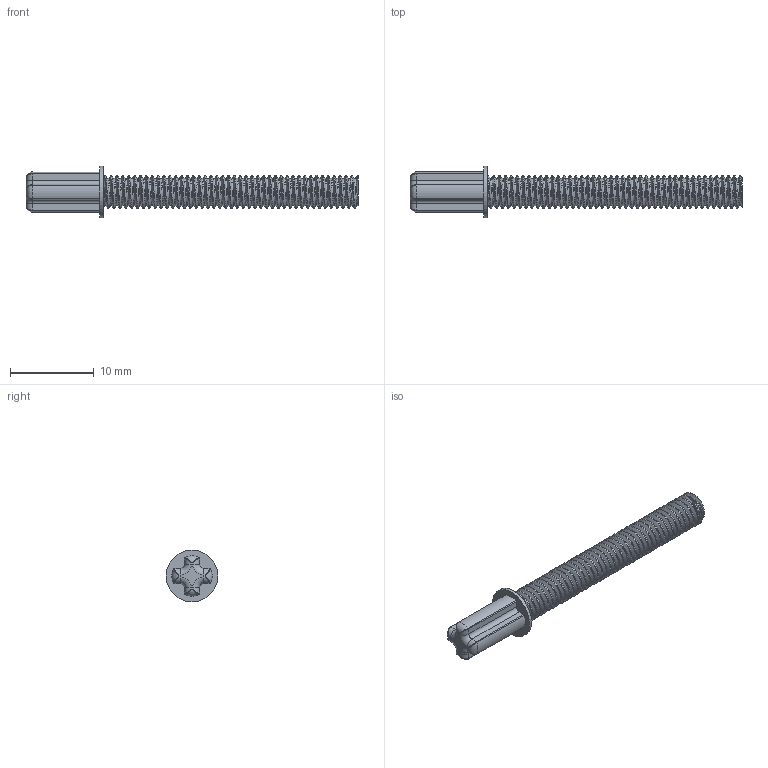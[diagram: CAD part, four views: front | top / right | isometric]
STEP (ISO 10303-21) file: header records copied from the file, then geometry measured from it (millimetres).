
FILE_DESCRIPTION(/* description */ ('Unknown'),/* implementation_level */ '2;1');
FILE_NAME(/* name */ 'Or_4612100_c)_AVV',/* time_stamp */ '2025-07-22T00:02:06+02:00',/* author */ ('Unknown'),/* organization */ ('Unknown'),/* preprocessor_version */ 'ST-DEVELOPER v19.4',/* originating_system */ 'Solid Edge',/* authorisation */ 'Unknown');
FILE_SCHEMA (('AUTOMOTIVE_DESIGN {1 0 10303 214 3 1 1}'));
Length unit declared in the file: millimetre
Products named in the file (1): Or_4612100_c)_AVV
Bounding box: 39.6 x 6.2 x 6.2 mm (x, y, z)
Volume: 436.4 mm3; surface area: 767.1 mm2
Topology: 1 solids, 1 shells, 57 faces, 135 edges, 74 vertices
Faces by surface type: cylinder 27, plane 12, bspline 10, torus 8
Full cylindrical faces by diameter (mm): 6.2 x1
Entity records: 10538 total; most frequent: CARTESIAN_POINT 9304, ORIENTED_EDGE 252, DIRECTION 252, EDGE_CURVE 126, AXIS2_PLACEMENT_3D 102, VERTEX_POINT 74, EDGE_LOOP 60, FACE_BOUND 60
